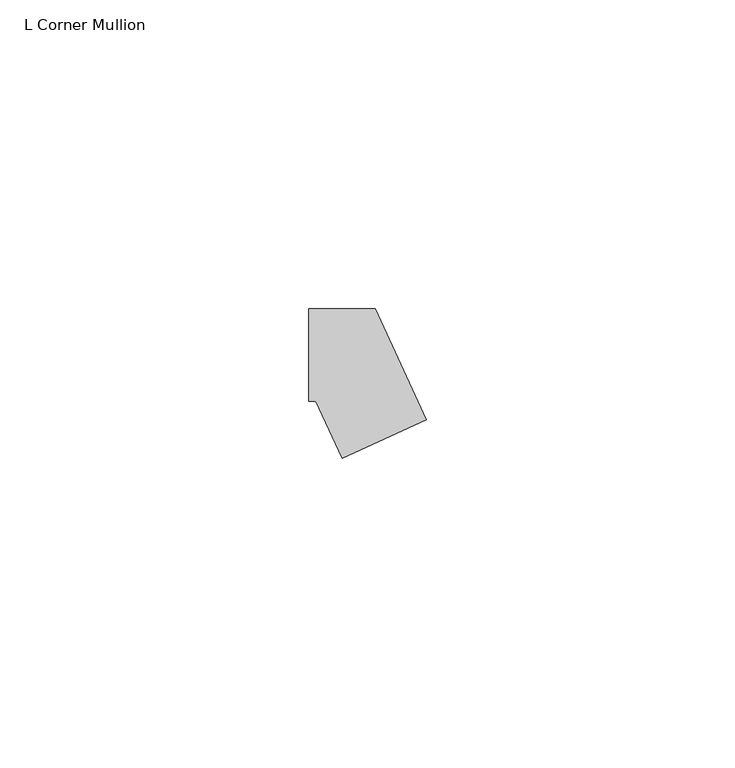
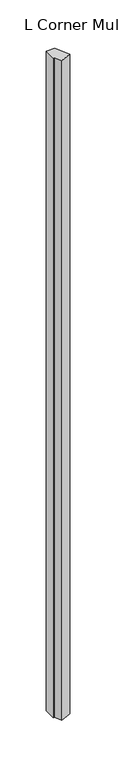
"""IFC4 building model written with IfcOpenShell, lengths in millimetres: member geometry, L Corner Mullion : ARQ_HERR_15X6mm."""

from ifc_helpers import new_model, si_unit, frame, origin, place, context, project, spatial, polyline, outline, extrude, source, transform, mapped, element, save


def l_corner_mullion_78013af7(model_context):
    return source(origin(), model_context, "Body", "SweptSolid", [
        extrude(outline(polyline([(-0.5775282, -16.7605627), (-4.8156946, -7.5), (-6.0, -7.5), (-6.0, 7.5), (4.8156946, 7.5), (13.0619332, -10.5183601), (-0.5775282, -16.7605627)])), frame((0.0, 0.0, -872.0436542), z_axis=(0.0, 0.0, 1.0), x_axis=(1.0, 0.0, 0.0)), (0.0, 0.0, 1.0), 872.0436542),
    ])


if __name__ == "__main__":
    model = new_model("IFC4")
    model_context = context("Model", 3, world=origin())
    ifc_project = project(units=[si_unit("LENGTHUNIT", "METRE", prefix="MILLI")], contexts=[model_context])
    site = spatial("IfcSite", under=ifc_project)
    building = spatial("IfcBuilding", under=site)
    placement = place(None, origin())
    l_corner_mullion_shape = l_corner_mullion_78013af7(model_context)
    element("IfcMember", 1, ObjectType="L Corner Mullion : ARQ_HERR_15X6mm", at=placement, inside=building, context=model_context, shape_type="MappedRepresentation", body=[
        mapped(l_corner_mullion_shape, transform((0.0, 0.0, 0.0), x_axis=(1.0, 0.0, 0.0), y_axis=(0.0, 1.0, 0.0), z_axis=(0.0, 0.0, 1.0))),
    ])
    save(model, "model.ifc")
